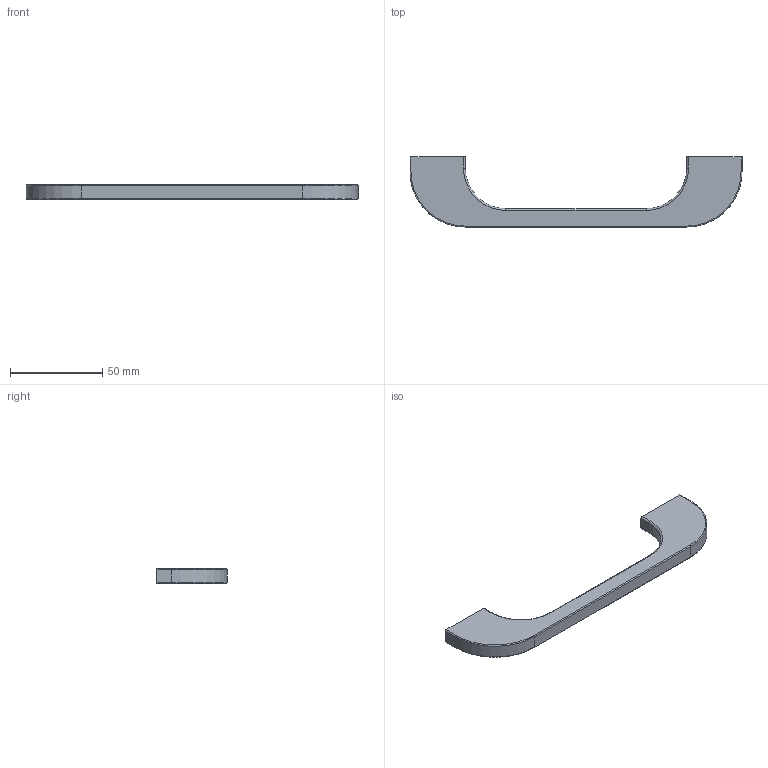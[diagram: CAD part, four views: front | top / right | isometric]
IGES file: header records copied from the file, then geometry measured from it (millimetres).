
Start section: Data from Parasolid IGES Translator 15.0.47, Copyright(c) 2006 Siemens P LM Software. All Rights Reserved.
Global section: file name: 9131416.igs; native system:  By UGS Corp.; preprocessor: XPlus GENERIC/IGES 3.0; author: Noname; organization: Noname; date: 20140122.143946; units: millimetre
Bounding box: 180 x 38 x 8 mm (x, y, z)
Surface area: 10232.4 mm2 (no closed solid volume)
Topology: 0 solids, 0 shells, 38 faces, 172 edges, 170 vertices
Faces by surface type: revolution 26, extrusion 12
